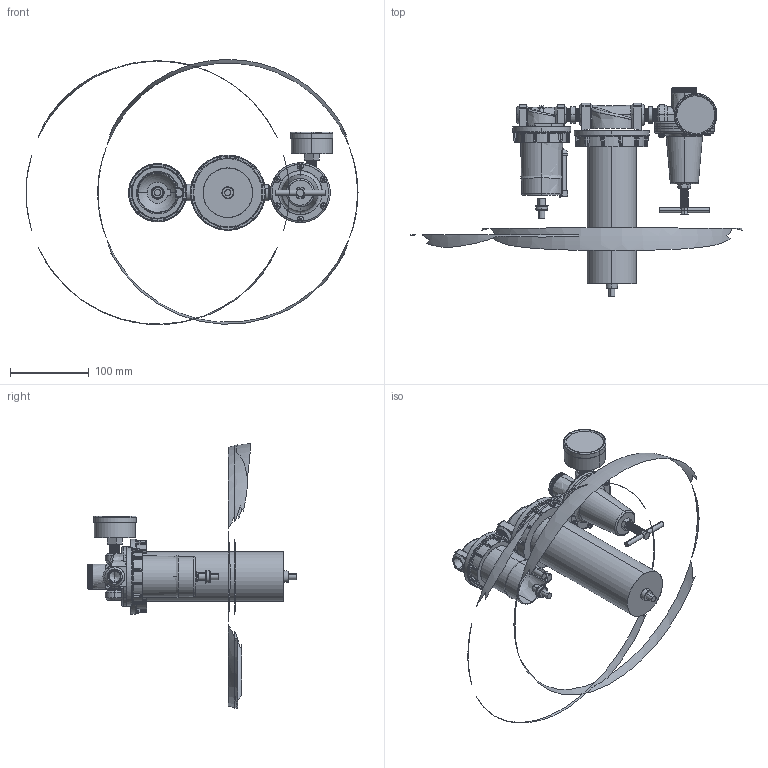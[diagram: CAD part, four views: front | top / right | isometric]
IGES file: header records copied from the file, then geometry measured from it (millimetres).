
Start section: SolidWorks IGES file using analytic representation for surfaces
Global section: file name: C:\Users\Toshiba\Desktop\C728#W#-03YB#.IGS; native system: SolidWorks 2014; preprocessor: SolidWorks 2014; author: Toshiba; date: 160216.113809; units: millimetre
Bounding box: 422.44 x 265.5 x 337.41 mm (x, y, z)
Surface area: 198217.5 mm2 (no closed solid volume)
Topology: 0 solids, 0 shells, 1571 faces, 19814 edges, 19782 vertices
Faces by surface type: bspline 822, revolution 749
